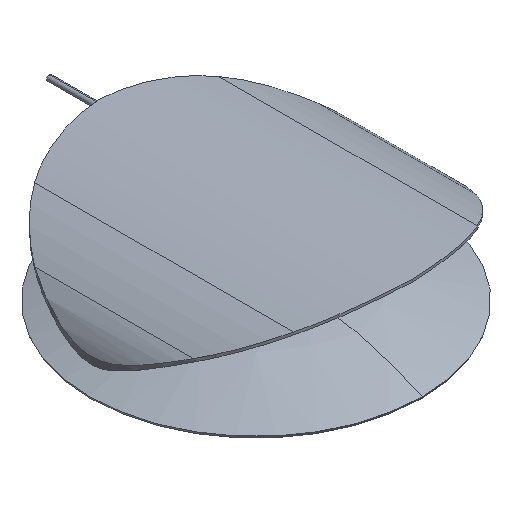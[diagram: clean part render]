
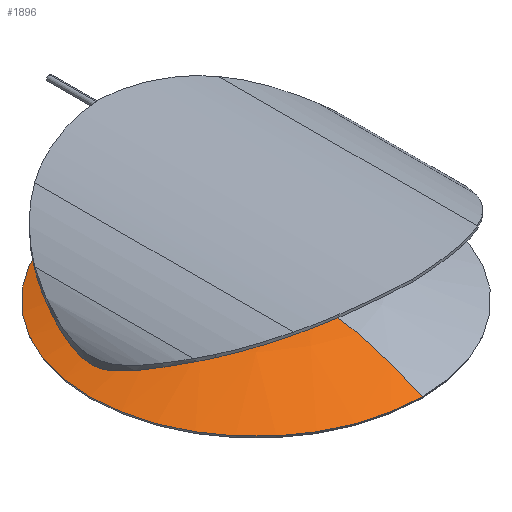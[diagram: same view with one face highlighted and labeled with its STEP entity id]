
A CAD part, isometric view. The second image highlights one B-rep face of the part: STEP entity #1896.
In plain terms, the highlighted free-form (B-spline) face has degree [2, 2] with [3, 5] control points.
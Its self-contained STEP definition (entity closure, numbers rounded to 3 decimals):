
#45=(
BOUNDED_SURFACE()
B_SPLINE_SURFACE(2,2,((#3011,#3012,#3013,#3014,#3015),(#3016,#3017,#3018,
#3019,#3020),(#3021,#3022,#3023,#3024,#3025)),.UNSPECIFIED.,.F.,.F.,.F.)
B_SPLINE_SURFACE_WITH_KNOTS((3,3),(3,2,3),(1.126,1.571),
(-1.571,0.,1.571),
 .UNSPECIFIED.)
GEOMETRIC_REPRESENTATION_ITEM()
RATIONAL_B_SPLINE_SURFACE(((1.,0.707,1.,0.707,1.),
(0.975,0.69,0.975,0.69,
0.975),(1.,0.707,1.,0.707,1.)))
REPRESENTATION_ITEM('')
SURFACE()
);
#179=FACE_OUTER_BOUND('',#315,.T.);
#315=EDGE_LOOP('',(#1348,#1349,#1350,#1351,#1352,#1353,#1354,#1355));
#444=B_SPLINE_CURVE_WITH_KNOTS('',3,(#2995,#2996,#2997,#2998,#2999,#3000,
#3001),.UNSPECIFIED.,.F.,.F.,(4,1,1,1,4),(0.,0.25,0.5,0.75,1.),
 .UNSPECIFIED.);
#446=B_SPLINE_CURVE_WITH_KNOTS('',3,(#3032,#3033,#3034,#3035,#3036,#3037,
#3038,#3039,#3040,#3041,#3042,#3043),.UNSPECIFIED.,.F.,.F.,(4,1,1,1,1,1,
1,1,1,4),(0.,0.111,0.222,0.333,0.444,
0.556,0.667,0.778,0.889,
1.),.UNSPECIFIED.);
#447=B_SPLINE_CURVE_WITH_KNOTS('',3,(#3048,#3049,#3050,#3051,#3052,#3053,
#3054,#3055,#3056,#3057,#3058,#3059,#3060),.UNSPECIFIED.,.F.,.F.,(4,1,1,
1,1,1,1,1,1,1,4),(0.,0.1,0.2,0.3,0.4,0.5,0.6,0.7,0.8,0.9,1.),
 .UNSPECIFIED.);
#770=CIRCLE('',#2050,100.025);
#771=CIRCLE('',#2051,198.261);
#772=CIRCLE('',#2052,198.261);
#773=CIRCLE('',#2053,198.261);
#774=CIRCLE('',#2054,198.261);
#871=VERTEX_POINT('',#2993);
#872=VERTEX_POINT('',#2994);
#873=VERTEX_POINT('',#3026);
#874=VERTEX_POINT('',#3027);
#875=VERTEX_POINT('',#3029);
#876=VERTEX_POINT('',#3031);
#877=VERTEX_POINT('',#3045);
#878=VERTEX_POINT('',#3047);
#1042=EDGE_CURVE('',#871,#872,#444,.T.);
#1045=EDGE_CURVE('',#873,#874,#770,.T.);
#1046=EDGE_CURVE('',#875,#873,#771,.T.);
#1047=EDGE_CURVE('',#876,#875,#446,.T.);
#1048=EDGE_CURVE('',#871,#876,#772,.T.);
#1049=EDGE_CURVE('',#877,#872,#773,.T.);
#1050=EDGE_CURVE('',#878,#877,#447,.T.);
#1051=EDGE_CURVE('',#874,#878,#774,.T.);
#1348=ORIENTED_EDGE('',*,*,#1045,.F.);
#1349=ORIENTED_EDGE('',*,*,#1046,.F.);
#1350=ORIENTED_EDGE('',*,*,#1047,.F.);
#1351=ORIENTED_EDGE('',*,*,#1048,.F.);
#1352=ORIENTED_EDGE('',*,*,#1042,.T.);
#1353=ORIENTED_EDGE('',*,*,#1049,.F.);
#1354=ORIENTED_EDGE('',*,*,#1050,.F.);
#1355=ORIENTED_EDGE('',*,*,#1051,.F.);
#1896=ADVANCED_FACE('',(#179),#45,.F.);
#2050=AXIS2_PLACEMENT_3D('',#3028,#2310,#2311);
#2051=AXIS2_PLACEMENT_3D('',#3030,#2312,#2313);
#2052=AXIS2_PLACEMENT_3D('',#3044,#2314,#2315);
#2053=AXIS2_PLACEMENT_3D('',#3046,#2316,#2317);
#2054=AXIS2_PLACEMENT_3D('',#3061,#2318,#2319);
#2310=DIRECTION('center_axis',(0.,0.,
-1.));
#2311=DIRECTION('ref_axis',(-0.588,0.809,0.));
#2312=DIRECTION('center_axis',(-1.,0.,0.));
#2313=DIRECTION('ref_axis',(0.,1.,0.));
#2314=DIRECTION('center_axis',(-1.,0.,0.));
#2315=DIRECTION('ref_axis',(0.,1.,0.));
#2316=DIRECTION('center_axis',(-1.,0.,0.));
#2317=DIRECTION('ref_axis',(0.,-1.,0.));
#2318=DIRECTION('center_axis',(-1.,0.,0.));
#2319=DIRECTION('ref_axis',(0.,-1.,0.));
#2993=CARTESIAN_POINT('',(0.,14.779,20.617));
#2994=CARTESIAN_POINT('',(0.,-14.779,20.617));
#2995=CARTESIAN_POINT('Ctrl Pts',(0.,14.779,
20.617));
#2996=CARTESIAN_POINT('Ctrl Pts',(4.081,15.036,20.617));
#2997=CARTESIAN_POINT('Ctrl Pts',(11.47,11.47,20.617));
#2998=CARTESIAN_POINT('Ctrl Pts',(16.433,0.,
20.617));
#2999=CARTESIAN_POINT('Ctrl Pts',(11.47,-11.47,20.617));
#3000=CARTESIAN_POINT('Ctrl Pts',(4.081,-15.036,20.617));
#3001=CARTESIAN_POINT('Ctrl Pts',(0.,-14.779,
20.617));
#3011=CARTESIAN_POINT('Ctrl Pts',(0.,-100.025,
1.354));
#3012=CARTESIAN_POINT('Ctrl Pts',(100.025,-100.025,1.354));
#3013=CARTESIAN_POINT('Ctrl Pts',(100.025,0.,
1.354));
#3014=CARTESIAN_POINT('Ctrl Pts',(100.025,100.025,1.354));
#3015=CARTESIAN_POINT('Ctrl Pts',(0.,100.025,
1.354));
#3016=CARTESIAN_POINT('Ctrl Pts',(0.,-59.548,
20.631));
#3017=CARTESIAN_POINT('Ctrl Pts',(59.548,-59.548,20.631));
#3018=CARTESIAN_POINT('Ctrl Pts',(59.548,0.,
20.631));
#3019=CARTESIAN_POINT('Ctrl Pts',(59.548,59.548,20.631));
#3020=CARTESIAN_POINT('Ctrl Pts',(0.,59.548,
20.631));
#3021=CARTESIAN_POINT('Ctrl Pts',(0.,-14.716,
20.617));
#3022=CARTESIAN_POINT('Ctrl Pts',(14.716,-14.716,20.617));
#3023=CARTESIAN_POINT('Ctrl Pts',(14.716,0.,
20.617));
#3024=CARTESIAN_POINT('Ctrl Pts',(14.716,14.716,20.617));
#3025=CARTESIAN_POINT('Ctrl Pts',(0.,14.716,
20.617));
#3026=CARTESIAN_POINT('',(0.,100.025,1.354));
#3027=CARTESIAN_POINT('',(0.,-100.025,1.354));
#3028=CARTESIAN_POINT('Origin',(0.,0.,
1.354));
#3029=CARTESIAN_POINT('',(0.,41.337,18.83));
#3030=CARTESIAN_POINT('Origin',(0.,14.779,-177.644));
#3031=CARTESIAN_POINT('',(0.,27.27,20.223));
#3032=CARTESIAN_POINT('Ctrl Pts',(0.,27.27,
20.223));
#3033=CARTESIAN_POINT('Ctrl Pts',(0.825,27.264,20.223));
#3034=CARTESIAN_POINT('Ctrl Pts',(2.467,27.561,20.2));
#3035=CARTESIAN_POINT('Ctrl Pts',(4.639,28.804,20.097));
#3036=CARTESIAN_POINT('Ctrl Pts',(6.247,30.722,19.928));
#3037=CARTESIAN_POINT('Ctrl Pts',(7.094,33.069,19.705));
#3038=CARTESIAN_POINT('Ctrl Pts',(7.084,35.558,19.455));
#3039=CARTESIAN_POINT('Ctrl Pts',(6.226,37.892,19.209));
#3040=CARTESIAN_POINT('Ctrl Pts',(4.624,39.8,19.001));
#3041=CARTESIAN_POINT('Ctrl Pts',(2.46,41.045,18.863));
#3042=CARTESIAN_POINT('Ctrl Pts',(0.823,41.343,18.829));
#3043=CARTESIAN_POINT('Ctrl Pts',(0.,41.337,
18.83));
#3044=CARTESIAN_POINT('Origin',(0.,14.779,-177.644));
#3045=CARTESIAN_POINT('',(0.,-27.27,20.223));
#3046=CARTESIAN_POINT('Origin',(0.,-14.779,-177.644));
#3047=CARTESIAN_POINT('',(0.,-41.337,18.83));
#3048=CARTESIAN_POINT('Ctrl Pts',(0.,-41.337,
18.83));
#3049=CARTESIAN_POINT('Ctrl Pts',(0.74,-41.341,18.829));
#3050=CARTESIAN_POINT('Ctrl Pts',(2.216,-41.101,18.856));
#3051=CARTESIAN_POINT('Ctrl Pts',(4.214,-40.085,18.969));
#3052=CARTESIAN_POINT('Ctrl Pts',(5.797,-38.502,19.143));
#3053=CARTESIAN_POINT('Ctrl Pts',(6.815,-36.513,19.355));
#3054=CARTESIAN_POINT('Ctrl Pts',(7.17,-34.308,19.582));
#3055=CARTESIAN_POINT('Ctrl Pts',(6.827,-32.1,19.798));
#3056=CARTESIAN_POINT('Ctrl Pts',(5.812,-30.102,19.984));
#3057=CARTESIAN_POINT('Ctrl Pts',(4.22,-28.515,20.121));
#3058=CARTESIAN_POINT('Ctrl Pts',(2.219,-27.504,20.204));
#3059=CARTESIAN_POINT('Ctrl Pts',(0.742,-27.267,20.223));
#3060=CARTESIAN_POINT('Ctrl Pts',(0.,-27.27,
20.223));
#3061=CARTESIAN_POINT('Origin',(0.,-14.779,
-177.644));
